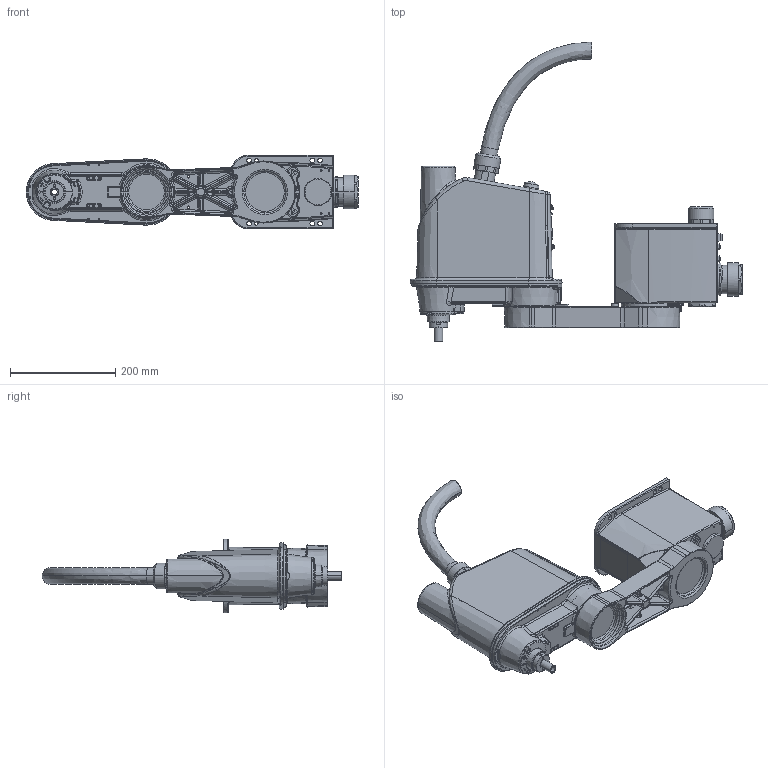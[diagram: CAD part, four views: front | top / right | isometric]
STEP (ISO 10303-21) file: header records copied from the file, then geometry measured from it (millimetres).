
FILE_DESCRIPTION((''),'2;1');
FILE_NAME('THE400-T_3D_ASM','2024-06-06T15:40:35',('15575'),(''),'CREO PARAMETRIC BY PTC INC, 2020454','CREO PARAMETRIC BY PTC INC, 2020454','');
FILE_SCHEMA(('AUTOMOTIVE_DESIGN { 1 0 10303 214 1 1 1 1 }'));
Products named in the file (6): THE400-T_BASE; THE400-T_1ST_ARM; THE400-T_BALL_SCREW; THE400-T_2ND_ARM_; THE400-T_2ND_ARM_COVER_; THE400-T_3D_ASM
Assembly tree (5 placements, depth 2):
  THE400-T_3D_ASM
    THE400-T_BASE
    THE400-T_1ST_ARM
    THE400-T_BALL_SCREW
    THE400-T_2ND_ARM_
    THE400-T_2ND_ARM_COVER_
Bounding box: 631 x 569.6 x 140 mm (x, y, z)
Volume: 2616445.9 mm3; surface area: 1000730.6 mm2
Topology: 5 solids, 24 shells, 2530 faces, 5857 edges, 3452 vertices
Faces by surface type: plane 797, cylinder 771, cone 333, bspline 252, torus 243, sphere 134
Entity records: 102721 total; most frequent: CARTESIAN_POINT 31659, DIRECTION 11638, ORIENTED_EDGE 11545, EDGE_CURVE 5832, AXIS2_PLACEMENT_3D 4645, VERTEX_POINT 3452, EDGE_LOOP 2727, PRESENTATION_STYLE_ASSIGNMENT 2592
